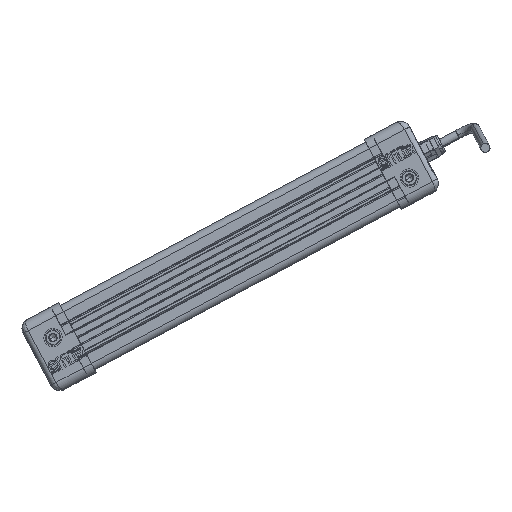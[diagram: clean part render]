
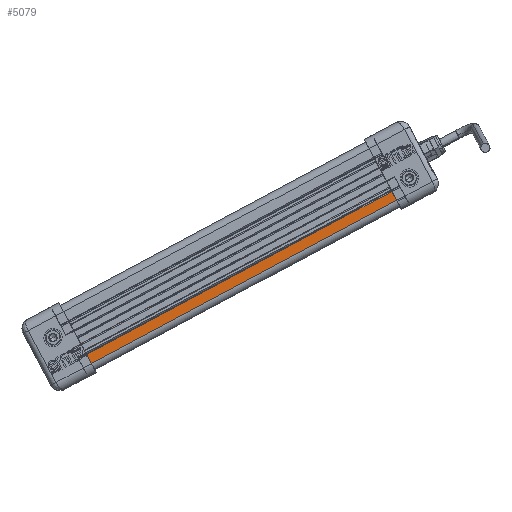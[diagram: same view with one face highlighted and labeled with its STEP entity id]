
A CAD part, front view. The second image highlights one B-rep face of the part: STEP entity #5079.
In plain terms, the highlighted planar face has unit normal (0, -1, 0) as drawn and (-1, 0, 0) by its records, which use the part's own axes.
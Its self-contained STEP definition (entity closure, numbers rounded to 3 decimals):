
#4121 = VERTEX_POINT ( 'NONE', #40166 ) ;
#5079 = ADVANCED_FACE ( 'NONE', ( #6415 ), #49632, .F. ) ;
#5388 = ORIENTED_EDGE ( 'NONE', *, *, #51222, .F. ) ;
#6163 = DIRECTION ( 'NONE',  ( 0., 1., 0. ) ) ;
#6415 = FACE_OUTER_BOUND ( 'NONE', #45198, .T. ) ;
#7035 = DIRECTION ( 'NONE',  ( 0., -1., 0. ) ) ;
#7366 = EDGE_CURVE ( 'NONE', #31672, #4121, #30406, .T. ) ;
#8158 = EDGE_CURVE ( 'NONE', #36659, #4121, #47450, .T. ) ;
#9701 = ORIENTED_EDGE ( 'NONE', *, *, #25858, .T. ) ;
#11839 = CARTESIAN_POINT ( 'NONE',  ( -9., -16., 199. ) ) ;
#16011 = VECTOR ( 'NONE', #16204, 1000. ) ;
#16204 = DIRECTION ( 'NONE',  ( 0., 0., -1. ) ) ;
#18789 = CARTESIAN_POINT ( 'NONE',  ( -9., -10.5, 0. ) ) ;
#19023 = CARTESIAN_POINT ( 'NONE',  ( -9., -10.5, 199. ) ) ;
#20897 = ORIENTED_EDGE ( 'NONE', *, *, #7366, .F. ) ;
#21120 = ORIENTED_EDGE ( 'NONE', *, *, #8158, .T. ) ;
#21724 = CARTESIAN_POINT ( 'NONE',  ( -9., -10.5, 199. ) ) ;
#22370 = CARTESIAN_POINT ( 'NONE',  ( -9., -16., 199. ) ) ;
#23073 = CARTESIAN_POINT ( 'NONE',  ( -9., -10.5, 0. ) ) ;
#25858 = EDGE_CURVE ( 'NONE', #46640, #36659, #48524, .T. ) ;
#25888 = CARTESIAN_POINT ( 'NONE',  ( -9., -10.5, 199. ) ) ;
#30406 = LINE ( 'NONE', #22370, #48688 ) ;
#30735 = VECTOR ( 'NONE', #7035, 1000. ) ;
#31519 = DIRECTION ( 'NONE',  ( 0., -1., 0. ) ) ;
#31672 = VERTEX_POINT ( 'NONE', #11839 ) ;
#32066 = VECTOR ( 'NONE', #31519, 1000. ) ;
#36508 = CARTESIAN_POINT ( 'NONE',  ( -9., -10.5, 199. ) ) ;
#36659 = VERTEX_POINT ( 'NONE', #23073 ) ;
#40166 = CARTESIAN_POINT ( 'NONE',  ( -9., -16., 0. ) ) ;
#41034 = AXIS2_PLACEMENT_3D ( 'NONE', #25888, #41824, #6163 ) ;
#41824 = DIRECTION ( 'NONE',  ( 1., 0., 0. ) ) ;
#42917 = DIRECTION ( 'NONE',  ( 0., 0., -1. ) ) ;
#45198 = EDGE_LOOP ( 'NONE', ( #21120, #20897, #5388, #9701 ) ) ;
#46640 = VERTEX_POINT ( 'NONE', #21724 ) ;
#47450 = LINE ( 'NONE', #18789, #32066 ) ;
#47674 = LINE ( 'NONE', #19023, #30735 ) ;
#48524 = LINE ( 'NONE', #36508, #16011 ) ;
#48688 = VECTOR ( 'NONE', #42917, 1000. ) ;
#49632 = PLANE ( 'NONE',  #41034 ) ;
#51222 = EDGE_CURVE ( 'NONE', #46640, #31672, #47674, .T. ) ;
